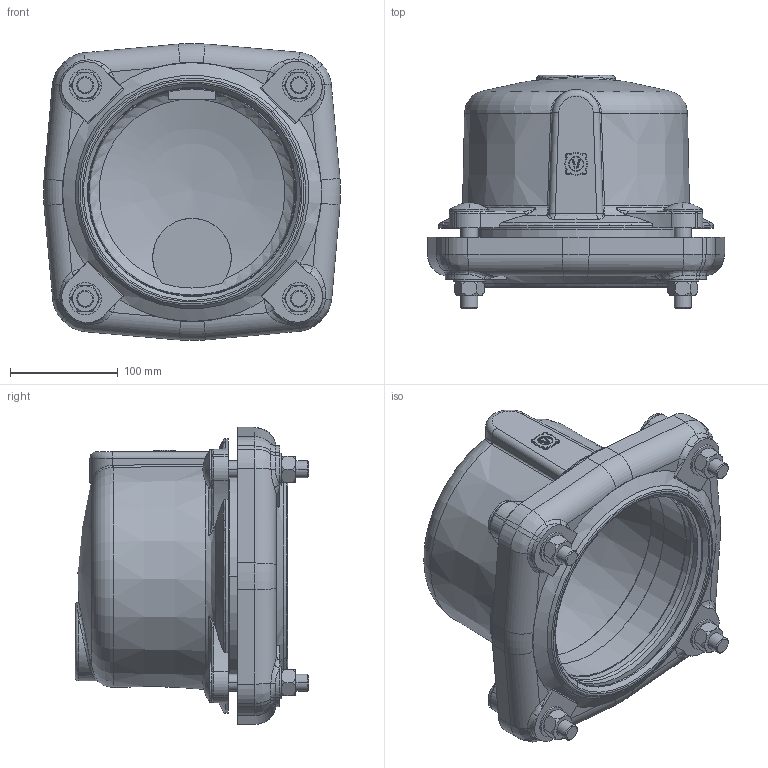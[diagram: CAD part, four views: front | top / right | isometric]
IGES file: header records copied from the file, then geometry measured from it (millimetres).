
Global section: file name: No Iges File Name specified; native system: AutoDesk Inventor R12.0; preprocessor: AutoDesk Inventor Iges Exporter R12.0; date: 20120423.102805; units: millimetre
Bounding box: 276.22 x 217.2 x 276.22 mm (x, y, z)
Volume: 1746331.1 mm3; surface area: 500035.7 mm2
Topology: 1 solids, 1 shells, 803 faces, 2119 edges, 1341 vertices
Faces by surface type: plane 346, cylinder 121, bspline 120, revolution 99, cone 65, torus 51, sphere 1
